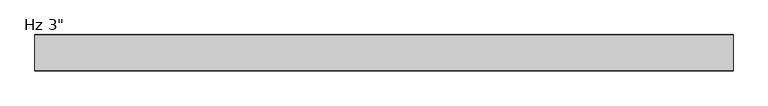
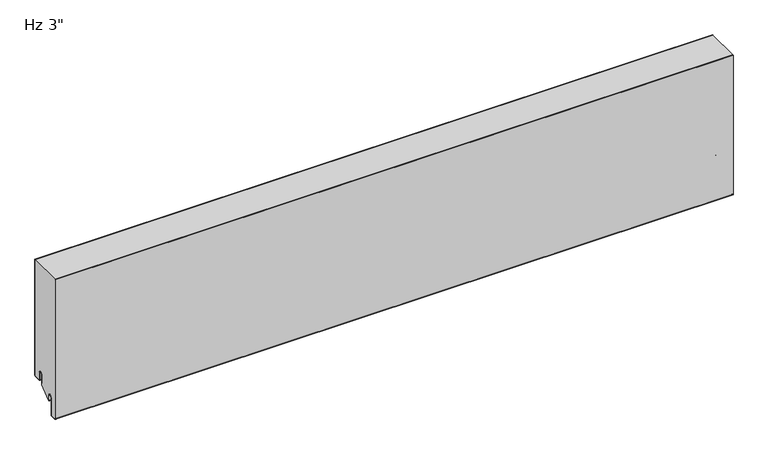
"""IFC4 building model written with IfcOpenShell, lengths in millimetres: plate geometry."""

from ifc_helpers import new_model, si_unit, point, frame, frame_2d, origin, place, context, project, spatial, polyline, circle_curve, trimmed, segment, composite_curve, outline, extrude, source, transform, mapped, element, save


def plate_ec5e73b8(model_context):
    return source(origin(), model_context, "Body", "SweptSolid", [
        extrude(outline(composite_curve([segment(trimmed(circle_curve(frame_2d((-21.43125, 19.05)), 4.96875), [point((-16.4625, 19.05))], [point((-26.4, 19.05))], True, "CARTESIAN"), True, "CONTINUOUS"), segment(polyline([(-26.4, 19.05), (-26.4, -3.1323422), (-49.2157227, -23.01875), (-50.8, -23.01875), (-50.8, -13.5080174), (-51.59375, -13.5080174), (-51.3875, -11.9205174)]), True, "CONTINUOUS"), segment(trimmed(circle_curve(frame_2d((-56.35625, -11.9205174)), 4.96875), [point((-51.3875, -11.9205174))], [point((-61.325, -11.9205174))], True, "CARTESIAN"), True, "CONTINUOUS"), segment(polyline([(-61.325, -11.9205174), (-61.325, -50.1038221)]), True, "CONTINUOUS"), segment(trimmed(circle_curve(frame_2d((-62.70625, -50.1038221)), 1.38125), [point((-61.325, -50.1038221))], [point((-62.633961, -51.4831791))], False, "CARTESIAN"), True, "CONTINUOUS"), segment(polyline([(-62.633961, -51.4831791), (-73.746461, -52.0655606)]), True, "CONTINUOUS"), segment(trimmed(circle_curve(frame_2d((-73.81875, -50.6862035)), 1.38125), [point((-73.746461, -52.0655606))], [point((-75.2, -50.6862035))], False, "CARTESIAN"), True, "CONTINUOUS"), segment(polyline([(-75.2, -50.6862035), (-75.2, 266.4), (-1.0, 266.4), (-1.0, 3.175)]), True, "CONTINUOUS"), segment(trimmed(circle_curve(frame_2d((-2.38125, 3.175)), 1.38125), [point((-1.0, 3.175))], [point((-2.38125, 1.79375))], False, "CARTESIAN"), True, "CONTINUOUS"), segment(polyline([(-2.38125, 1.79375), (-15.08125, 1.79375)]), True, "CONTINUOUS"), segment(trimmed(circle_curve(frame_2d((-15.08125, 3.175)), 1.38125), [point((-15.08125, 1.79375))], [point((-16.4625, 3.175))], False, "CARTESIAN"), True, "CONTINUOUS"), segment(polyline([(-16.4625, 3.175), (-16.4625, 19.05)]), True, "CONTINUOUS")], self_intersect=False)), frame((-730.0, 0.0, 0.0), z_axis=(1.0, 0.0, 0.0), x_axis=(0.0, 1.0, 0.0)), (0.0, 0.0, 1.0), 1460.0),
        extrude(outline(composite_curve([segment(polyline([(-25.4, 0.79375), (-26.4, 0.79375), (-26.4, 19.05)]), True, "CONTINUOUS"), segment(trimmed(circle_curve(frame_2d((-21.43125, 19.05)), 4.96875), [point((-26.4, 19.05))], [point((-16.4625, 19.05))], False, "CARTESIAN"), True, "CONTINUOUS"), segment(polyline([(-16.4625, 19.05), (-16.4625, 3.175)]), True, "CONTINUOUS"), segment(trimmed(circle_curve(frame_2d((-15.08125, 3.175)), 1.38125), [point((-16.4625, 3.175))], [point((-15.08125, 1.79375))], True, "CARTESIAN"), True, "CONTINUOUS"), segment(polyline([(-15.08125, 1.79375), (-2.38125, 1.79375)]), True, "CONTINUOUS"), segment(trimmed(circle_curve(frame_2d((-2.38125, 3.175)), 1.38125), [point((-2.38125, 1.79375))], [point((-1.0, 3.175))], True, "CARTESIAN"), True, "CONTINUOUS"), segment(polyline([(-1.0, 3.175), (-1.0, 266.4), (0.0, 266.4), (0.0, 3.175)]), True, "CONTINUOUS"), segment(trimmed(circle_curve(frame_2d((-2.38125, 3.175)), 2.38125), [point((0.0, 3.175))], [point((-2.38125, 0.79375))], False, "CARTESIAN"), True, "CONTINUOUS"), segment(polyline([(-2.38125, 0.79375), (-15.08125, 0.79375)]), True, "CONTINUOUS"), segment(trimmed(circle_curve(frame_2d((-15.08125, 3.175)), 2.38125), [point((-15.08125, 0.79375))], [point((-17.4625, 3.175))], False, "CARTESIAN"), True, "CONTINUOUS"), segment(polyline([(-17.4625, 3.175), (-17.4625, 19.05)]), True, "CONTINUOUS"), segment(trimmed(circle_curve(frame_2d((-21.43125, 19.05)), 3.96875), [point((-17.4625, 19.05))], [point((-25.4, 19.05))], True, "CARTESIAN"), True, "CONTINUOUS"), segment(polyline([(-25.4, 19.05), (-25.4, 0.79375)]), True, "CONTINUOUS")], self_intersect=False)), frame((-730.0, 0.0, 0.0), z_axis=(1.0, 0.0, 0.0), x_axis=(0.0, 1.0, 0.0)), (0.0, 0.0, 1.0), 1460.0),
        extrude(outline(composite_curve([segment(trimmed(circle_curve(frame_2d((-51.59375, -23.2314549)), 0.79375), [point((-50.8, -23.2314549))], [point((-52.3875, -23.2314549))], False, "CARTESIAN"), True, "CONTINUOUS"), segment(polyline([(-52.3875, -23.2314549), (-52.3875, -11.9205174)]), True, "CONTINUOUS"), segment(trimmed(circle_curve(frame_2d((-56.35625, -11.9205174)), 3.96875), [point((-52.3875, -11.9205174))], [point((-60.325, -11.9205174))], True, "CARTESIAN"), True, "CONTINUOUS"), segment(polyline([(-60.325, -11.9205174), (-60.325, -50.1038221)]), True, "CONTINUOUS"), segment(trimmed(circle_curve(frame_2d((-62.70625, -50.1038221)), 2.38125), [point((-60.325, -50.1038221))], [point((-62.581625, -52.4818086))], False, "CARTESIAN"), True, "CONTINUOUS"), segment(polyline([(-62.581625, -52.4818086), (-73.694125, -53.0641901)]), True, "CONTINUOUS"), segment(trimmed(circle_curve(frame_2d((-73.81875, -50.6862035)), 2.38125), [point((-73.694125, -53.0641901))], [point((-76.2, -50.6862035))], False, "CARTESIAN"), True, "CONTINUOUS"), segment(polyline([(-76.2, -50.6862035), (-76.2, 266.4), (-75.2, 266.4), (-75.2, -50.6862035)]), True, "CONTINUOUS"), segment(trimmed(circle_curve(frame_2d((-73.81875, -50.6862035)), 1.38125), [point((-75.2, -50.6862035))], [point((-73.746461, -52.0655606))], True, "CARTESIAN"), True, "CONTINUOUS"), segment(polyline([(-73.746461, -52.0655606), (-62.633961, -51.4831791)]), True, "CONTINUOUS"), segment(trimmed(circle_curve(frame_2d((-62.70625, -50.1038221)), 1.38125), [point((-62.633961, -51.4831791))], [point((-61.325, -50.1038221))], True, "CARTESIAN"), True, "CONTINUOUS"), segment(polyline([(-61.325, -50.1038221), (-61.325, -11.9205174)]), True, "CONTINUOUS"), segment(trimmed(circle_curve(frame_2d((-56.35625, -11.9205174)), 4.96875), [point((-61.325, -11.9205174))], [point((-51.3875, -11.9205174))], False, "CARTESIAN"), True, "CONTINUOUS"), segment(polyline([(-51.3875, -11.9205174), (-51.59375, -13.5080174), (-50.8, -13.5080174), (-50.8, -23.2314549)]), True, "CONTINUOUS")], self_intersect=False)), frame((-730.0, 0.0, 0.0), z_axis=(1.0, 0.0, 0.0), x_axis=(0.0, 1.0, 0.0)), (0.0, 0.0, 1.0), 1460.0),
    ])


if __name__ == "__main__":
    model = new_model("IFC4")
    model_context = context("Model", 3, world=origin())
    ifc_project = project(units=[si_unit("LENGTHUNIT", "METRE", prefix="MILLI")], contexts=[model_context])
    site = spatial("IfcSite", under=ifc_project)
    building = spatial("IfcBuilding", under=site)
    placement = place(None, origin())
    plate_shape = plate_ec5e73b8(model_context)
    element("IfcPlate", 1, ObjectType="KIP-42-DWHR-R19-CP-Hz-F : Hz 3\"", at=placement, inside=building, context=model_context, shape_type="MappedRepresentation", body=[
        mapped(plate_shape, transform((0.0, 0.0, 0.0), x_axis=(1.0, 0.0, 0.0), y_axis=(0.0, 1.0, 0.0), z_axis=(0.0, 0.0, 1.0))),
    ])
    save(model, "model.ifc")
